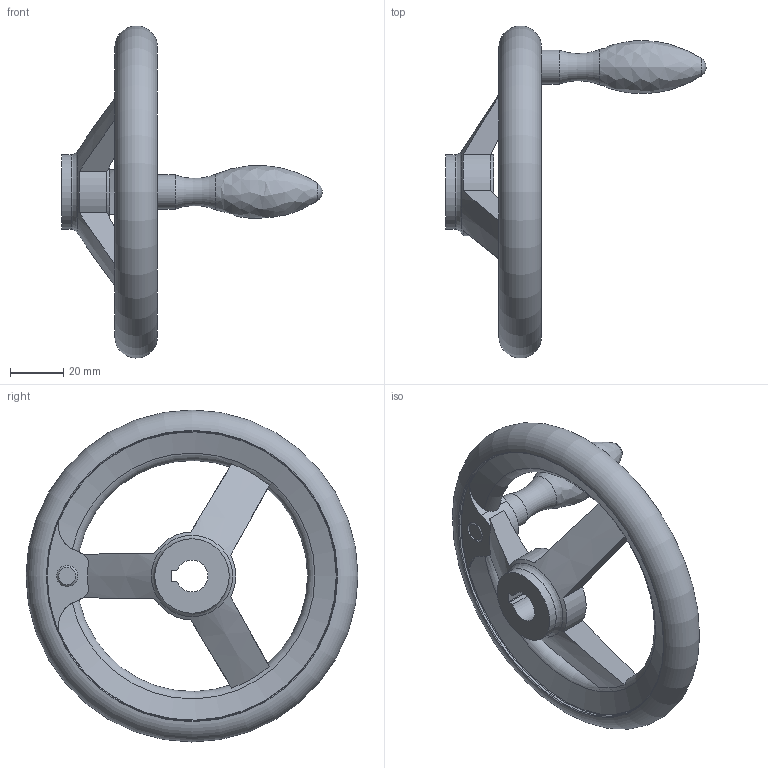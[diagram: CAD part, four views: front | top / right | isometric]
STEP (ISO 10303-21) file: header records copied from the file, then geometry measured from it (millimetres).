
FILE_DESCRIPTION( ( 'STEP AP203' ), '1' );
FILE_NAME( 'C:/Temp/Ganter_Step_05_03_2020/data/1_3/din_950/din_950_k/din_950_k_f/Handwheel DIN 950-AL-125-K12-F.stp', '2020-03-05T10:31:12', ( 'License CC BY-ND 4.0' ), ( 'CADENAS' ), ' ', 'PARTsolutions', ' ' );
FILE_SCHEMA( ( 'CONFIG_CONTROL_DESIGN' ) );
Length unit declared in the file: millimetre
Products named in the file (1): _Handwheel DIN 950-AL-125-K12-F
Bounding box: 98 x 124.98 x 124.98 mm (x, y, z)
Volume: 104588.3 mm3; surface area: 29608.8 mm2
Topology: 1 solids, 1 shells, 49 faces, 139 edges, 89 vertices
Faces by surface type: cylinder 17, plane 14, torus 11, cone 5, sphere 1, bspline 1
Full cylindrical faces by diameter (mm): 8 x1, 12.8 x1, 28 x2, 109 x2
Entity records: 1817 total; most frequent: CARTESIAN_POINT 643, DIRECTION 224, ORIENTED_EDGE 224, EDGE_CURVE 112, AXIS2_PLACEMENT_3D 100, VERTEX_POINT 83, EDGE_LOOP 73, FACE_OUTER_BOUND 64
